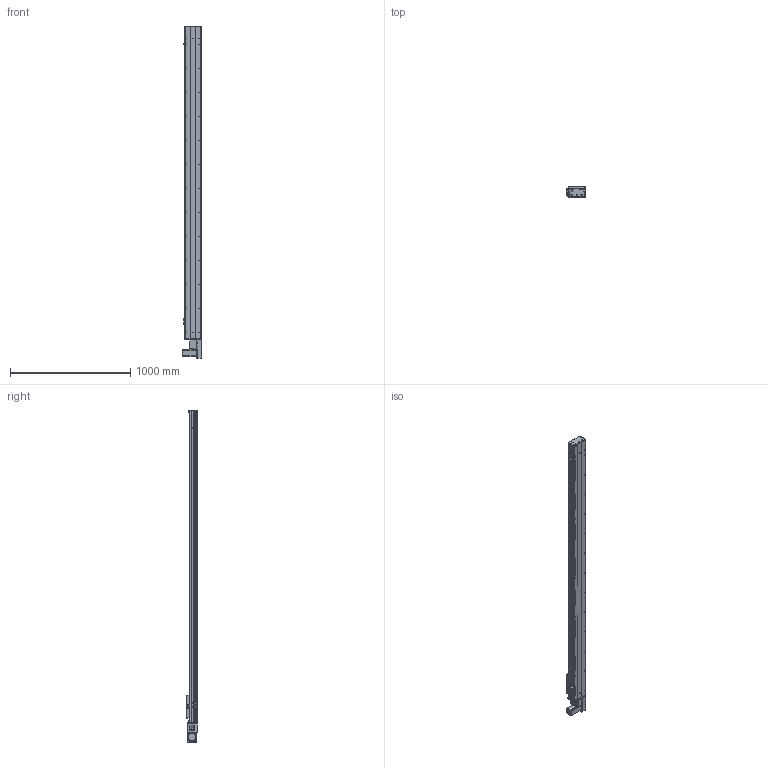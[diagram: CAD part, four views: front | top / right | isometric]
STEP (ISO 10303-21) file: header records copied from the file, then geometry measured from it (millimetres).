
FILE_DESCRIPTION (( 'STEP AP203' ), '1' );
FILE_NAME ('Y135CB-D90-S2300-BL-P400W.STEP', '2020-02-18T01:36:12', ( '微软用户' ), ( '微软中国' ), 'SwSTEP 2.0', 'SolidWorks 2017', '' );
FILE_SCHEMA (( 'CONFIG_CONTROL_DESIGN' ));
Length unit declared in the file: millimetre
Products named in the file (18): 35CB---喘謫眊楊擘啣; C-雄赽釱--; 0B-萇儂楊擘啣; Y10B--々湍喘謫眊--666; Y135CB-D90-S2300-BL-P400W; san松下电机400不带刹车----; Y10B-耜蚾蟀諉啣----; 5CB --掛极耜裔啣-; Y俋欶BR----; C-詩湍揤踡え-陔; 0B-埴倛裔啣; 135CB--詩湍-CE; 0B-源倛裔啣; Y100-135俋离換覜ん--; Y135CB-耜裔; Y135C-陔俋离換覜結え-; 135CB---遴掛极.-; 5C--俋欶
Assembly tree (21 placements, depth 2):
  Y135CB-D90-S2300-BL-P400W
    Y135CB-耜裔
    135CB---遴掛极.-
    35CB---喘謫眊楊擘啣
    Y10B--々湍喘謫眊--666
    Y10B-耜蚾蟀諉啣----
    Y俋欶BR----
    0B-埴倛裔啣
    0B-源倛裔啣
    0B-萇儂楊擘啣
    san松下电机400不带刹车----
    5CB --掛极耜裔啣-  x2
    C-詩湍揤踡え-陔  x2
    135CB--詩湍-CE
    Y100-135俋离換覜ん--  x3
    Y135C-陔俋离換覜結え-
    5C--俋欶
    C-雄赽釱--
Bounding box: 157.5 x 91 x 2764.5 mm (x, y, z)
Volume: 7763173.1 mm3; surface area: 3072656.2 mm2
Topology: 21 solids, 21 shells, 973 faces, 2653 edges, 1758 vertices
Faces by surface type: cylinder 499, plane 458, cone 16
Entity records: 30755 total; most frequent: CARTESIAN_POINT 5120, DIRECTION 5109, ORIENTED_EDGE 4782, EDGE_CURVE 2391, AXIS2_PLACEMENT_3D 1871, VERTEX_POINT 1586, VECTOR 1367, LINE 1367
